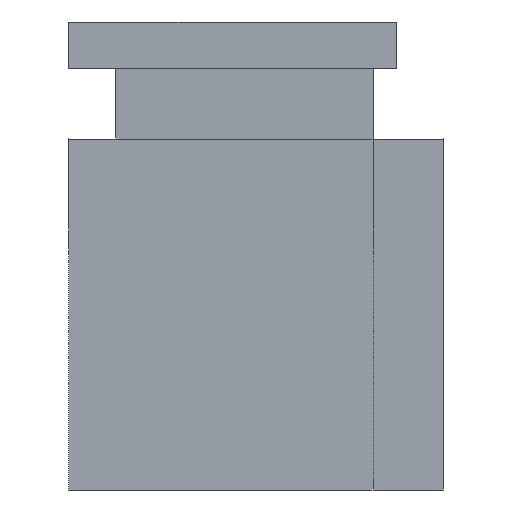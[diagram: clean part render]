
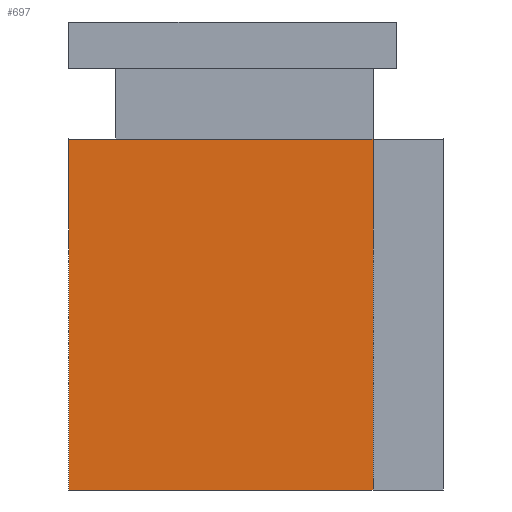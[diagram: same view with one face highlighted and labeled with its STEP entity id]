
A CAD part, left-side view. The second image highlights one B-rep face of the part: STEP entity #697.
In plain terms, the highlighted planar face has unit normal (-1, 0, 0).
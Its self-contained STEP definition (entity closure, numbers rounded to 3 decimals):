
#572=CARTESIAN_POINT('',(-21.0,3.,-7.5));
#573=VERTEX_POINT('',#572);
#580=CARTESIAN_POINT('',(-21.0,16.,-7.5));
#581=VERTEX_POINT('',#580);
#582=CARTESIAN_POINT('',(-21.0,16.,-7.5));
#583=DIRECTION('',(0.0,-1.0,0.0));
#584=VECTOR('',#583,13.);
#585=LINE('',#582,#584);
#586=EDGE_CURVE('',#581,#573,#585,.T.);
#649=CARTESIAN_POINT('',(-21.0,3.,7.5));
#650=VERTEX_POINT('',#649);
#657=CARTESIAN_POINT('',(-21.0,3.,-7.5));
#658=DIRECTION('',(0.0,0.0,1.0));
#659=VECTOR('',#658,15.);
#660=LINE('',#657,#659);
#661=EDGE_CURVE('',#573,#650,#660,.T.);
#674=CARTESIAN_POINT('',(-21.0,3.,0.0));
#675=DIRECTION('',(-1.0,0.0,0.0));
#676=DIRECTION('',(0.0,0.0,1.0));
#677=AXIS2_PLACEMENT_3D('',#674,#675,#676);
#678=PLANE('',#677);
#679=CARTESIAN_POINT('',(-21.0,16.,7.5));
#680=VERTEX_POINT('',#679);
#681=CARTESIAN_POINT('',(-21.0,3.,7.5));
#682=DIRECTION('',(0.0,1.0,0.0));
#683=VECTOR('',#682,13.);
#684=LINE('',#681,#683);
#685=EDGE_CURVE('',#650,#680,#684,.T.);
#686=ORIENTED_EDGE('',*,*,#685,.T.);
#687=CARTESIAN_POINT('',(-21.0,16.,-7.5));
#688=DIRECTION('',(0.0,0.0,1.0));
#689=VECTOR('',#688,15.);
#690=LINE('',#687,#689);
#691=EDGE_CURVE('',#581,#680,#690,.T.);
#692=ORIENTED_EDGE('',*,*,#691,.F.);
#693=ORIENTED_EDGE('',*,*,#586,.T.);
#694=ORIENTED_EDGE('',*,*,#661,.T.);
#695=EDGE_LOOP('',(#686,#692,#693,#694));
#696=FACE_OUTER_BOUND('',#695,.T.);
#697=ADVANCED_FACE('',(#696),#678,.T.);
